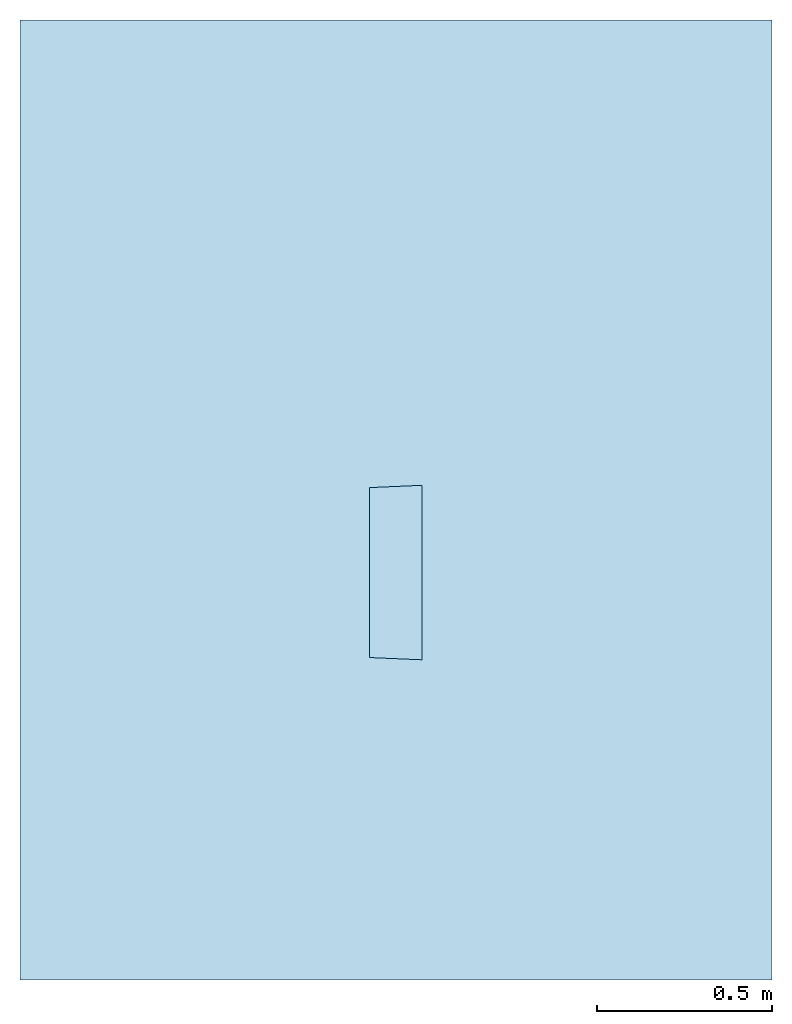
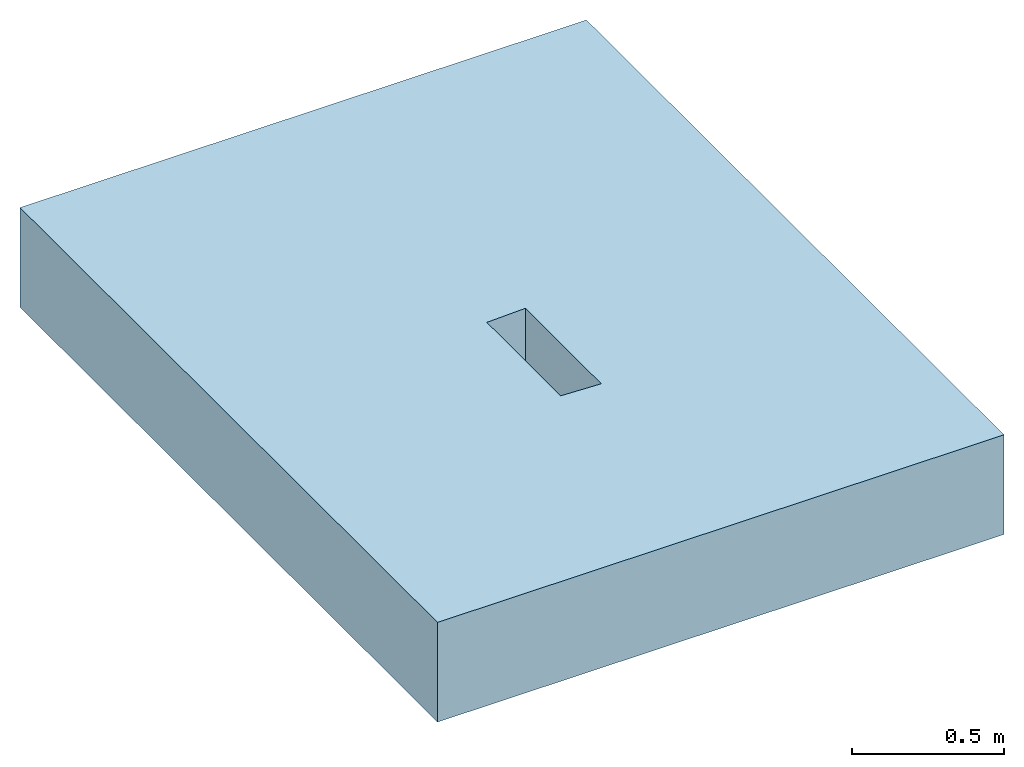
# One storey: 1 slab, 3 openings.
"""IFC2X3 building model written with IfcOpenShell, lengths in millimetres."""

from ifc_helpers import new_model, entity, si_unit, converted_unit, direction, frame, frame_2d, origin, origin_2d_with_axis, place, context, subcontext, project, spatial, polyline, rectangle, outline, extrude, material, layer, layer_set, layer_usage, element, save


model = new_model("IFC2X3")

# Units and contexts
model_context = context("Model", 3, precision=1e-06, world=origin(), true_north=direction((2.0, 6.12303176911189e-17, 1.0)))
context_of_model = context(None, 3, precision=1e-06, world=origin(), true_north=direction((2.0, 6.12303176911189e-17, 1.0)))
body_context = subcontext(model_context, "Body", "Model", "MODEL_VIEW")
ifc_project = project(units=[si_unit("LENGTHUNIT", "METRE", prefix="MILLI"), si_unit("AREAUNIT", "SQUARE_METRE", prefix="MILLI"), si_unit("VOLUMEUNIT", "CUBIC_METRE", prefix="MILLI"), converted_unit("PLANEANGLEUNIT", "DEGREE", entity("IfcRatioMeasure", 0.0174532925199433), si_unit("PLANEANGLEUNIT", "RADIAN"), dimensions=[0, 0, 0, 0, 0, 0, 0]), si_unit("TIMEUNIT", "SECOND")], contexts=[model_context, context_of_model])

# Site, building, storey
site_placement = place(None, origin())
site = spatial("IfcSite", under=ifc_project, at=site_placement, Name="Default", CompositionType="ELEMENT")
building_placement = place(site_placement, origin())
building = spatial("IfcBuilding", under=site, at=building_placement, CompositionType="ELEMENT")
storey_placement = place(building_placement, origin())
storey = spatial("IfcBuildingStorey", under=building, at=storey_placement, Name="Level 1", CompositionType="ELEMENT", Elevation=0.0)

# Slab, openings
ifc_material = material(Name="Earth")
ifc_layer = layer(ifc_material, 400.0)
ifc_layer_set = layer_set([ifc_layer], Name="Floor:Generic Floor - 400mm")
ifc_layer_usage = layer_usage(ifc_layer_set, "AXIS3", "POSITIVE", 0.0)
slab_placement = place(storey_placement, frame((-6757.99544306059, -11162.1166238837, -400.0)))
slab = element("IfcSlab", 1, at=slab_placement, inside=storey, material=ifc_layer_usage, Name="Floor:Generic Floor - 400mm", ObjectType="Floor:Generic Floor - 400mm", PredefinedType="FLOOR", context=body_context, shape_type="SweptSolid", body=[
    extrude(rectangle(XDim=2745.0, YDim=2150.0, at=frame_2d((0.0, 0.0), x_axis=(0.0, 1.0))), frame((1075.0, 1372.5, 400.0), z_axis=(0.0, 0.0, -1.0), x_axis=(-1.0, 0.0, 0.0)), (0.0, 0.0, 1.0), 400.0),
])
opening_1_placement = place(slab_placement, origin())
element("IfcOpeningElement", 2, at=opening_1_placement, cuts=slab, ObjectType="Opening", context=body_context, shape_type="SweptSolid", body=[
    extrude(outline(polyline([(-133.518702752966, -87.7019530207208), (26.4562972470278, -87.7019530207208), (26.4562972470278, -70.7019530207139), (26.8490923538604, -70.7019530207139), (26.8490923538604, 29.6156241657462), (63.5617749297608, 59.2980469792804), (33.0157590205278, 59.2980469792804), (63.8490923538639, 84.2980469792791), (-133.518702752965, 84.2980469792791), (-133.518702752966, -87.7019530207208)])), frame((1000.0, 1024.29804697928, -1466.48129724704), z_axis=(1.0, 0.0, 0.0), x_axis=(0.0, 0.0, 1.0)), (0.0, 0.0, 1.0), 149.999999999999),
])
opening_2_placement = place(slab_placement, origin())
element("IfcOpeningElement", 3, at=opening_2_placement, cuts=slab, ObjectType="Opening", context=body_context, shape_type="SweptSolid", body=[
    extrude(outline(polyline([(-243.0, -75.0), (243.0, -75.0), (249.5, 75.0), (-249.500000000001, 75.0), (-243.0, -75.0)])), frame((1075.0, 1165.0, 45.0), z_axis=(0.0, 0.0, 1.0), x_axis=(0.0, -1.0, 0.0)), (0.0, 0.0, 1.0), 355.0),
])
opening_3_placement = place(slab_placement, origin())
element("IfcOpeningElement", 4, at=opening_3_placement, cuts=slab, ObjectType="Opening", context=body_context, shape_type="SweptSolid", body=[
    extrude(rectangle(XDim=149.999999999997, YDim=500.0, at=origin_2d_with_axis()), frame((1075.0, 1165.0, -2105.0), z_axis=(0.0, 0.0, 1.0), x_axis=(-1.0, 0.0, 0.0)), (0.0, 0.0, 1.0), 4.99999999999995),
])

save(model, "model.ifc")
